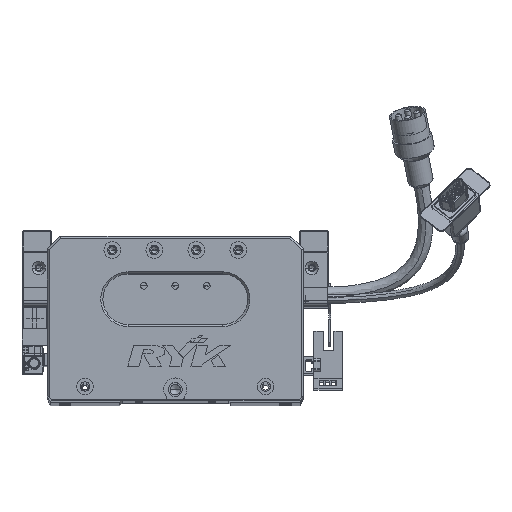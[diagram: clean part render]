
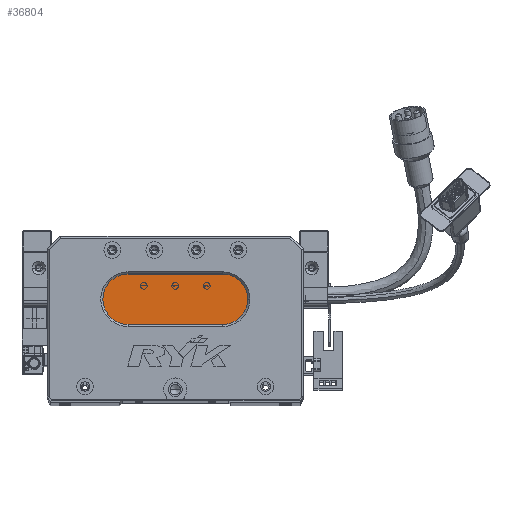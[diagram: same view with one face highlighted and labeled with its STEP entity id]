
A CAD part, top view. The second image highlights one B-rep face of the part: STEP entity #36804.
In plain terms, the highlighted planar face has unit normal (0, 0, 1) as drawn and (0, 0, -1) by its records, which use the part's own axes.
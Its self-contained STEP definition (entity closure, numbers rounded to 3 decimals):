
#349 = CARTESIAN_POINT ( 'NONE',  ( 38.5, 48., 13. ) ) ;
#2116 = CARTESIAN_POINT ( 'NONE',  ( 83.5, 36., 13. ) ) ;
#2141 = EDGE_CURVE ( 'NONE', #3369, #82131, #38973, .T. ) ;
#2912 = CARTESIAN_POINT ( 'NONE',  ( 38.5, 48., 13. ) ) ;
#3369 = VERTEX_POINT ( 'NONE', #13313 ) ;
#6946 = ORIENTED_EDGE ( 'NONE', *, *, #2141, .T. ) ;
#7306 = CARTESIAN_POINT ( 'NONE',  ( 38.5, 60., 13. ) ) ;
#10698 = CIRCLE ( 'NONE', #57712, 12. ) ;
#11228 = LINE ( 'NONE', #45347, #54565 ) ;
#11632 = ORIENTED_EDGE ( 'NONE', *, *, #67965, .T. ) ;
#12053 = EDGE_CURVE ( 'NONE', #82131, #71948, #47088, .T. ) ;
#13313 = CARTESIAN_POINT ( 'NONE',  ( 26.5, 48., 13. ) ) ;
#14585 = AXIS2_PLACEMENT_3D ( 'NONE', #74971, #42259, #62022 ) ;
#16451 = FACE_OUTER_BOUND ( 'NONE', #28061, .T. ) ;
#16978 = EDGE_CURVE ( 'NONE', #71948, #82832, #10698, .T. ) ;
#17930 = DIRECTION ( 'NONE',  ( 0., 0., -1. ) ) ;
#18291 = DIRECTION ( 'NONE',  ( -1., 0., 0. ) ) ;
#22481 = AXIS2_PLACEMENT_3D ( 'NONE', #2912, #80312, #29029 ) ;
#28061 = EDGE_LOOP ( 'NONE', ( #32252, #31112, #11632, #6946, #50592 ) ) ;
#29029 = DIRECTION ( 'NONE',  ( -1., 0., 0. ) ) ;
#29345 = EDGE_CURVE ( 'NONE', #82832, #62769, #11228, .T. ) ;
#29872 = VECTOR ( 'NONE', #62125, 1000. ) ;
#31112 = ORIENTED_EDGE ( 'NONE', *, *, #29345, .T. ) ;
#32252 = ORIENTED_EDGE ( 'NONE', *, *, #16978, .T. ) ;
#36253 = DIRECTION ( 'NONE',  ( -1., 0., 0. ) ) ;
#36804 = ADVANCED_FACE ( 'NONE', ( #16451 ), #81437, .T. ) ;
#38973 = CIRCLE ( 'NONE', #22481, 12. ) ;
#42259 = DIRECTION ( 'NONE',  ( 0., 0., -1. ) ) ;
#43572 = CARTESIAN_POINT ( 'NONE',  ( 83.5, 48., 13. ) ) ;
#45347 = CARTESIAN_POINT ( 'NONE',  ( 83.5, 36., 13. ) ) ;
#47088 = LINE ( 'NONE', #62956, #29872 ) ;
#50592 = ORIENTED_EDGE ( 'NONE', *, *, #12053, .T. ) ;
#54565 = VECTOR ( 'NONE', #18291, 1000. ) ;
#56602 = CARTESIAN_POINT ( 'NONE',  ( 83.5, 60., 13. ) ) ;
#57712 = AXIS2_PLACEMENT_3D ( 'NONE', #43572, #17930, #36253 ) ;
#57761 = DIRECTION ( 'NONE',  ( 0., 0., -1. ) ) ;
#60990 = CIRCLE ( 'NONE', #80344, 12. ) ;
#62022 = DIRECTION ( 'NONE',  ( -1., 0., 0. ) ) ;
#62125 = DIRECTION ( 'NONE',  ( 1., 0., 0. ) ) ;
#62769 = VERTEX_POINT ( 'NONE', #76671 ) ;
#62956 = CARTESIAN_POINT ( 'NONE',  ( 83.5, 60., 13. ) ) ;
#65364 = DIRECTION ( 'NONE',  ( -1., 0., 0. ) ) ;
#67965 = EDGE_CURVE ( 'NONE', #62769, #3369, #60990, .T. ) ;
#71948 = VERTEX_POINT ( 'NONE', #56602 ) ;
#74971 = CARTESIAN_POINT ( 'NONE',  ( 83.5, 48., 13. ) ) ;
#76671 = CARTESIAN_POINT ( 'NONE',  ( 38.5, 36., 13. ) ) ;
#80312 = DIRECTION ( 'NONE',  ( 0., 0., -1. ) ) ;
#80344 = AXIS2_PLACEMENT_3D ( 'NONE', #349, #57761, #65364 ) ;
#81437 = PLANE ( 'NONE',  #14585 ) ;
#82131 = VERTEX_POINT ( 'NONE', #7306 ) ;
#82832 = VERTEX_POINT ( 'NONE', #2116 ) ;
